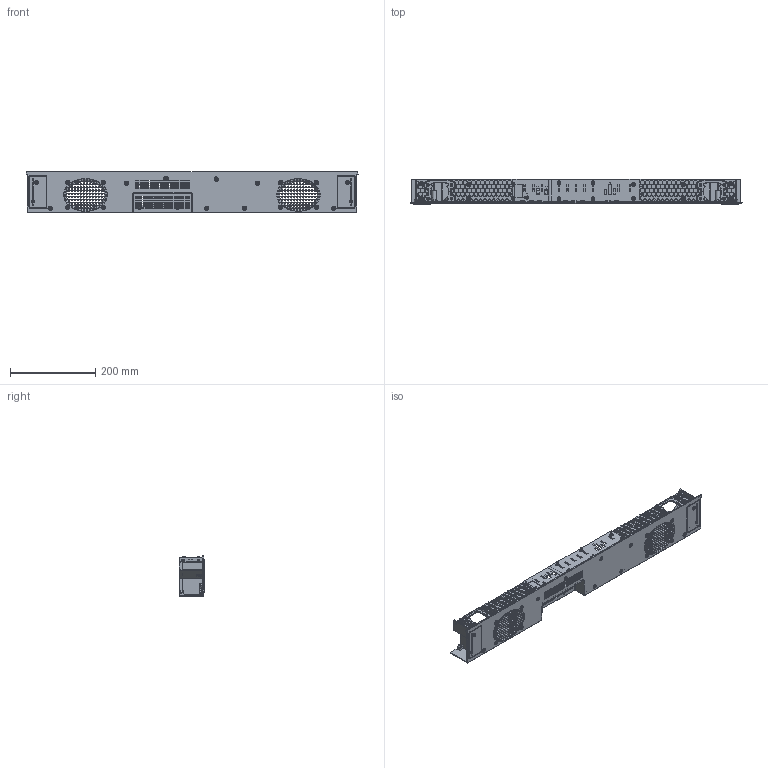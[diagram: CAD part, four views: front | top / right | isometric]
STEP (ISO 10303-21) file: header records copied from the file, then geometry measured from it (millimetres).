
FILE_DESCRIPTION((''),'2;1');
FILE_NAME('CASE_BOTTOM_MODIFY_UA300','2021-03-17T',('kym12'),(''),'CREO PARAMETRIC BY PTC INC, 2017170','CREO PARAMETRIC BY PTC INC, 2017170','');
FILE_SCHEMA(('CONFIG_CONTROL_DESIGN'));
Products named in the file (1): CASE_BOTTOM_MODIFY_UA300
Bounding box: 779.36 x 59.5 x 95.92 mm (x, y, z)
Volume: 517495.7 mm3; surface area: 451709.4 mm2
Topology: 1 solids, 1 shells, 7800 faces, 21125 edges, 13771 vertices
Faces by surface type: plane 5777, cylinder 1381, bspline 312, cone 281, extrusion 37, torus 10, sphere 2
Entity records: 319413 total; most frequent: CARTESIAN_POINT 127999, ORIENTED_EDGE 42250, DIRECTION 34289, EDGE_CURVE 21125, VECTOR 16423, LINE 16386, VERTEX_POINT 13771, EDGE_LOOP 8996
